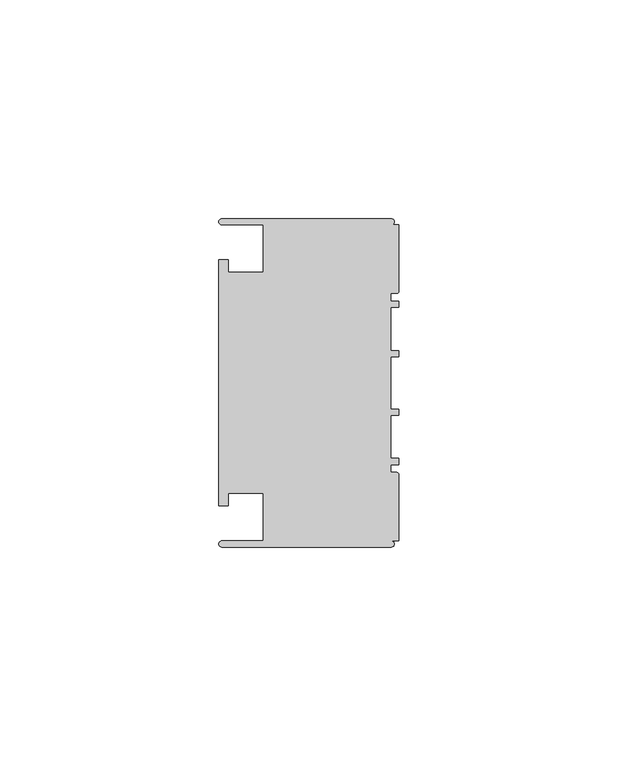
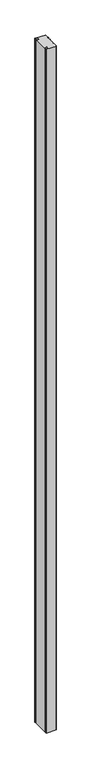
"""IFC4 building model written with IfcOpenShell, lengths in millimetres: member geometry, Прямоугольный импост : 3-AMG-2-Профиль 40Х75 Верх П."""

from ifc_helpers import new_model, si_unit, point, frame, frame_2d, origin, place, context, project, spatial, polyline, circle_curve, trimmed, segment, composite_curve, outline, extrude, source, transform, mapped, element, save


def member_b67aefd6(model_context):
    return source(origin(), model_context, "Body", "SweptSolid", [
        extrude(outline(composite_curve([segment(polyline([(-1.7, -37.5), (-40.4, -37.5)]), True, "CONTINUOUS"), segment(trimmed(circle_curve(frame_2d((-40.4, -36.8)), 0.7), [point((-40.4, -37.5))], [point((-40.4, -36.1))], False, "CARTESIAN"), True, "CONTINUOUS"), segment(polyline([(-40.4, -36.1), (-31.0, -36.1), (-31.0, -25.25), (-39.0, -25.25), (-39.0, -28.1), (-41.1, -28.1), (-41.1, 28.1), (-39.0, 28.1), (-39.0, 25.25), (-31.0, 25.25), (-31.0, 36.1), (-40.4, 36.1)]), True, "CONTINUOUS"), segment(trimmed(circle_curve(frame_2d((-40.4, 36.8)), 0.7), [point((-40.4, 36.1))], [point((-40.4, 37.5))], False, "CARTESIAN"), True, "CONTINUOUS"), segment(polyline([(-40.4, 37.5), (-1.7, 37.5)]), True, "CONTINUOUS"), segment(trimmed(circle_curve(frame_2d((-1.7, 36.8)), 0.7), [point((-1.7, 37.5))], [point((-1.7, 36.1))], False, "CARTESIAN"), True, "CONTINUOUS"), segment(polyline([(-1.7, 36.1), (0.0, 36.1), (0.0, 20.95)]), True, "CONTINUOUS"), segment(trimmed(circle_curve(frame_2d((-0.5, 20.95)), 0.5), [point((0.0, 20.95))], [point((-0.5, 20.45))], False, "CARTESIAN"), True, "CONTINUOUS"), segment(polyline([(-0.5, 20.45), (-1.8, 20.45), (-1.8, 18.65), (0.0, 18.65), (0.0, 17.25), (-1.8, 17.25), (-1.8, 7.4), (0.0, 7.4), (0.0, 6.0), (-1.8, 6.0), (-1.8, -6.0), (0.0, -6.0), (0.0, -7.4), (-1.8, -7.4), (-1.8, -17.25), (0.0, -17.25), (0.0, -18.65), (-1.8, -18.65), (-1.8, -20.45), (-0.5, -20.45)]), True, "CONTINUOUS"), segment(trimmed(circle_curve(frame_2d((-0.5, -20.95)), 0.5), [point((-0.5, -20.45))], [point((0.0, -20.95))], False, "CARTESIAN"), True, "CONTINUOUS"), segment(polyline([(0.0, -20.95), (0.0, -36.1), (-1.7, -36.1)]), True, "CONTINUOUS"), segment(trimmed(circle_curve(frame_2d((-1.7, -36.8)), 0.7), [point((-1.7, -36.1))], [point((-1.7, -37.5))], False, "CARTESIAN"), True, "CONTINUOUS")], self_intersect=False)), frame((0.0, 0.0, -2800.0), z_axis=(0.0, 0.0, 1.0), x_axis=(1.0, 0.0, 0.0)), (0.0, 0.0, 1.0), 2800.0),
    ])


if __name__ == "__main__":
    model = new_model("IFC4")
    model_context = context("Model", 3, world=origin())
    ifc_project = project(units=[si_unit("LENGTHUNIT", "METRE", prefix="MILLI")], contexts=[model_context])
    site = spatial("IfcSite", under=ifc_project)
    building = spatial("IfcBuilding", under=site)
    placement = place(None, origin())
    member_shape = member_b67aefd6(model_context)
    element("IfcMember", 1, ObjectType="Прямоугольный импост : 3-AMG-2-Профиль 40Х75 Верх П", at=placement, inside=building, context=model_context, shape_type="MappedRepresentation", body=[
        mapped(member_shape, transform((0.0, 0.0, 0.0), x_axis=(1.0, 0.0, 0.0), y_axis=(0.0, 1.0, 0.0), z_axis=(0.0, 0.0, 1.0))),
    ])
    save(model, "model.ifc")
